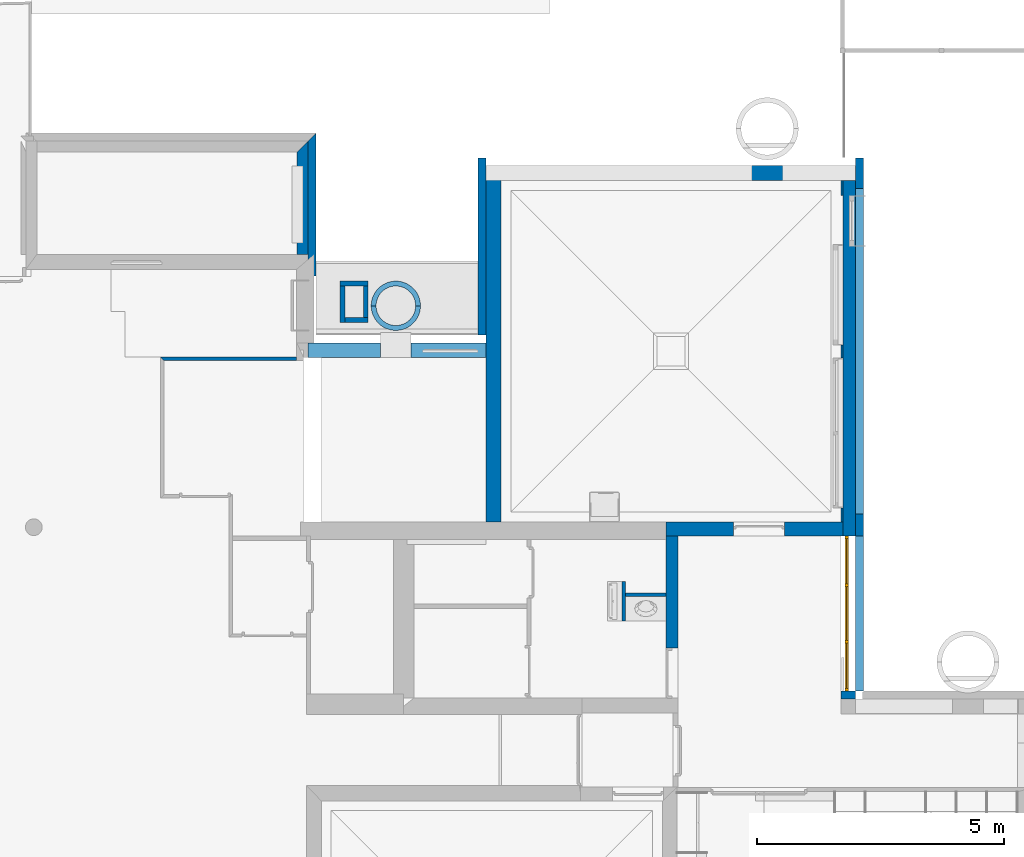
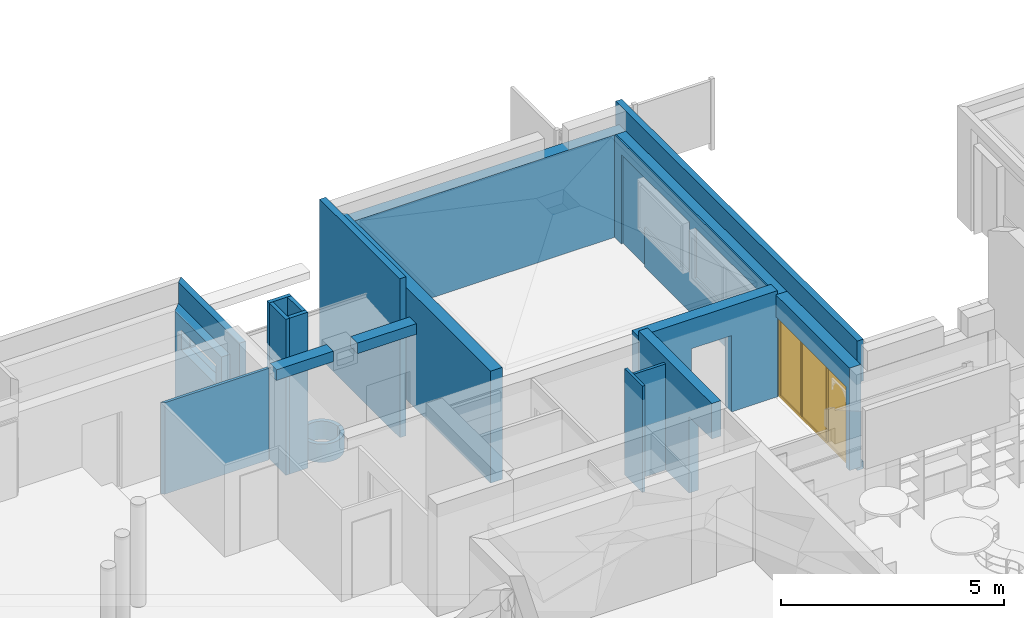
# One storey, part 23 of 64: 21 walls, 1 window, 9 openings.
"""IFC2X3 building model written with IfcOpenShell, lengths in metres."""

from ifc_helpers import new_model, entity, si_unit, converted_unit, derived_unit, direction, frame, frame_2d, origin, origin_2d_with_axis, place, context, subcontext, project, spatial, polyline, circle_curve, parameter, trimmed, segment, composite_curve, rectangle, outline, extrude, source, transform, mapped, material, material_list, layer, layer_set, layer_usage, type_object, type_shapes, element, fill, save


model = new_model("IFC2X3")

# Units and contexts
model_context = context("Model", 3, precision=1e-05, world=origin(), true_north=direction((6.123031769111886e-17, 1.0)))
body_context = subcontext(model_context, "Body", "Model", "MODEL_VIEW")
ifc_project = project(units=[si_unit("LENGTHUNIT", "METRE"), si_unit("AREAUNIT", "SQUARE_METRE"), si_unit("VOLUMEUNIT", "CUBIC_METRE"), converted_unit("PLANEANGLEUNIT", "DEGREE", entity("IfcRatioMeasure", 0.017453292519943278), si_unit("PLANEANGLEUNIT", "RADIAN"), dimensions=[0, 0, 0, 0, 0, 0, 0]), si_unit("MASSUNIT", "GRAM", prefix="KILO"), derived_unit("MASSDENSITYUNIT", [(si_unit("MASSUNIT", "GRAM", prefix="KILO"), 1), (si_unit("LENGTHUNIT", "METRE"), -3)]), derived_unit("MOMENTOFINERTIAUNIT", [(si_unit("LENGTHUNIT", "METRE"), 4)]), si_unit("TIMEUNIT", "SECOND"), si_unit("FREQUENCYUNIT", "HERTZ"), si_unit("THERMODYNAMICTEMPERATUREUNIT", "DEGREE_CELSIUS"), derived_unit("THERMALTRANSMITTANCEUNIT", [(si_unit("MASSUNIT", "GRAM", prefix="KILO"), 1), (si_unit("THERMODYNAMICTEMPERATUREUNIT", "KELVIN"), -1), (si_unit("TIMEUNIT", "SECOND"), -3)]), derived_unit("THERMALCONDUCTANCEUNIT", [(si_unit("MASSUNIT", "GRAM", prefix="KILO"), 1), (si_unit("LENGTHUNIT", "METRE"), 1), (si_unit("THERMODYNAMICTEMPERATUREUNIT", "KELVIN"), -1), (si_unit("TIMEUNIT", "SECOND"), -3)]), derived_unit("VOLUMETRICFLOWRATEUNIT", [(si_unit("LENGTHUNIT", "METRE"), 3), (si_unit("TIMEUNIT", "SECOND"), -1)]), derived_unit("MASSFLOWRATEUNIT", [(si_unit("MASSUNIT", "GRAM", prefix="KILO"), 1), (si_unit("TIMEUNIT", "SECOND"), -1)]), derived_unit("ROTATIONALFREQUENCYUNIT", [(si_unit("TIMEUNIT", "SECOND"), -1)]), si_unit("ELECTRICCURRENTUNIT", "AMPERE"), si_unit("ELECTRICVOLTAGEUNIT", "VOLT"), si_unit("POWERUNIT", "WATT"), si_unit("FORCEUNIT", "NEWTON", prefix="KILO"), si_unit("ILLUMINANCEUNIT", "LUX"), si_unit("LUMINOUSFLUXUNIT", "LUMEN"), si_unit("LUMINOUSINTENSITYUNIT", "CANDELA"), derived_unit("USERDEFINED", [(si_unit("MASSUNIT", "GRAM", prefix="KILO"), -1), (si_unit("LENGTHUNIT", "METRE"), -2), (si_unit("TIMEUNIT", "SECOND"), 3), (si_unit("LUMINOUSFLUXUNIT", "LUMEN"), 1)]), derived_unit("USERDEFINED", [(si_unit("MASSUNIT", "GRAM", prefix="KILO"), 1), (si_unit("LENGTHUNIT", "METRE"), 3), (si_unit("TIMEUNIT", "SECOND"), -3), (si_unit("ELECTRICCURRENTUNIT", "AMPERE"), -2)]), derived_unit("USERDEFINED", [(si_unit("LENGTHUNIT", "METRE"), 2), (si_unit("TIMEUNIT", "SECOND"), -2)]), derived_unit("SOUNDPOWERUNIT", [(si_unit("MASSUNIT", "GRAM", prefix="KILO"), 1), (si_unit("LENGTHUNIT", "METRE"), 2), (si_unit("TIMEUNIT", "SECOND"), -3)]), derived_unit("SOUNDPRESSUREUNIT", [(si_unit("MASSUNIT", "GRAM", prefix="KILO"), 1), (si_unit("LENGTHUNIT", "METRE"), -1), (si_unit("TIMEUNIT", "SECOND"), -2)]), derived_unit("LINEARVELOCITYUNIT", [(si_unit("LENGTHUNIT", "METRE"), 1), (si_unit("TIMEUNIT", "SECOND"), -1)]), si_unit("PRESSUREUNIT", "PASCAL"), derived_unit("USERDEFINED", [(si_unit("LENGTHUNIT", "METRE"), -2), (si_unit("MASSUNIT", "GRAM", prefix="KILO"), 1), (si_unit("TIMEUNIT", "SECOND"), -2)]), derived_unit("LINEARFORCEUNIT", [(si_unit("MASSUNIT", "GRAM", prefix="KILO"), 1), (si_unit("LENGTHUNIT", "METRE"), 1), (si_unit("TIMEUNIT", "SECOND"), -2), (si_unit("LENGTHUNIT", "METRE"), -1)]), derived_unit("PLANARFORCEUNIT", [(si_unit("MASSUNIT", "GRAM", prefix="KILO"), 1), (si_unit("LENGTHUNIT", "METRE"), 1), (si_unit("TIMEUNIT", "SECOND"), -2), (si_unit("LENGTHUNIT", "METRE"), -2)]), derived_unit("SPECIFICHEATCAPACITYUNIT", [(si_unit("LENGTHUNIT", "METRE"), 2), (si_unit("TIMEUNIT", "SECOND"), -2), (si_unit("THERMODYNAMICTEMPERATUREUNIT", "KELVIN"), -1)]), derived_unit("VAPORPERMEABILITYUNIT", [(si_unit("TIMEUNIT", "SECOND"), 1), (si_unit("LENGTHUNIT", "METRE"), -1)]), derived_unit("DYNAMICVISCOSITYUNIT", [(si_unit("MASSUNIT", "GRAM", prefix="KILO"), 1), (si_unit("LENGTHUNIT", "METRE"), -1), (si_unit("TIMEUNIT", "SECOND"), -1)]), derived_unit("THERMALEXPANSIONCOEFFICIENTUNIT", [(si_unit("THERMODYNAMICTEMPERATUREUNIT", "KELVIN"), -1)])], contexts=[model_context])

# Site, building, storey
site_placement = place(None, origin())
site = spatial("IfcSite", under=ifc_project, at=site_placement, Name="Default", CompositionType="ELEMENT")
building_placement = place(site_placement, origin())
building = spatial("IfcBuilding", under=site, at=building_placement, CompositionType="ELEMENT")
storey_placement = place(building_placement, origin())
storey = spatial("IfcBuildingStorey", under=building, at=storey_placement, Name="REZ-DE-CHAUSSÉE", CompositionType="ELEMENT", Elevation=0.0)

# Walls
wall_type_1 = type_object("IfcWallType", Name="MurExt-016", PredefinedType="NOTDEFINED")
wall_1_placement = place(storey_placement, frame((102.69075228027, 22.227209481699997, 2.05)))
element("IfcWall", 1, at=wall_1_placement, inside=storey, type_object=wall_type_1, Name="MurExt-016:MurExt-016", ObjectType="MurExt-016:MurExt-016", context=body_context, shape_type="SweptSolid", body=[
    extrude(rectangle(XDim=1.5200000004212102, YDim=0.3000000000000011, at=frame_2d((-8.715250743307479e-15, 0.0), x_axis=(1.0, 0.0))), frame((2.849999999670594, 0.15000000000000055, 0.0)), (0.0, 0.0, 1.0), 0.28999999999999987),
    extrude(rectangle(XDim=1.4699999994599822, YDim=0.3000000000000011, at=frame_2d((-8.659739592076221e-15, 0.0), x_axis=(1.0, 0.0))), frame((0.7349999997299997, 0.15000000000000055, 0.0)), (0.0, 0.0, 1.0), 0.28999999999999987),
])
ifc_material_1 = material(Name="Appareillage - Pierre taillé")
ifc_layer_1 = layer(ifc_material_1, 0.29999999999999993)
ifc_layer_set_1 = layer_set([ifc_layer_1], Name="Mur de base:Struct. - Pierre 300")
ifc_layer_usage_1 = layer_usage(ifc_layer_set_1, "AXIS2", "NEGATIVE", 0.14999999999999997)
wall_type_2 = type_object("IfcWallType", Name="Mur de base:Struct. - Pierre 300", PredefinedType="STANDARD", material=ifc_layer_set_1)
wall_2_placement = place(storey_placement, frame((106.30075228, 25.967209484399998, 0.0)))
element("IfcWallStandardCase", 2, at=wall_2_placement, inside=storey, type_object=wall_type_2, material=ifc_layer_usage_1, Name="MurExt-001", ObjectType="Mur de base:Struct. - Pierre 300", context=body_context, shape_type="SweptSolid", body=[
    extrude(outline(polyline([(7.490000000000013, -0.15000000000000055), (7.490000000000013, 0.15000000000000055), (0.0, 0.15000000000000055), (0.3000000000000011, -0.15000000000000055), (7.200000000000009, -0.15000000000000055), (7.240000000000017, -0.15000000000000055), (7.490000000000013, -0.15000000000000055)])), origin(), (0.0, 0.0, 1.0), 2.8),
])
wall_3_placement = place(storey_placement, frame((106.45075227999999, 18.8972094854, 0.0), z_axis=(0.0, 0.0, 1.0), x_axis=(0.0, 1.0, 0.0)))
element("IfcWallStandardCase", 3, at=wall_3_placement, inside=storey, type_object=wall_type_2, material=ifc_layer_usage_1, Name="MurExt-002", ObjectType="Mur de base:Struct. - Pierre 300", context=body_context, shape_type="SweptSolid", body=[
    extrude(outline(polyline([(6.919999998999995, -0.15000000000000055), (7.219999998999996, 0.15000000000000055), (0.0, 0.15000000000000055), (0.0, -0.15000000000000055), (6.919999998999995, -0.15000000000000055)])), origin(), (0.0, 0.0, 1.0), 3.06),
])

# Wall, opening
ifc_material_2 = material(Name="Enduit - Jaune nature")
ifc_layer_2 = layer(ifc_material_2, 0.02)
ifc_material_3 = material(Name="Isolation - Fibre de verre")
ifc_layer_3 = layer(ifc_material_3, 0.14)
ifc_layer_set_2 = layer_set([ifc_layer_2, ifc_layer_3], Name="Mur de base:ABA ITE 140 + enduit 160")
ifc_layer_usage_2 = layer_usage(ifc_layer_set_2, "AXIS2", "NEGATIVE", 0.08)
wall_type_3 = type_object("IfcWallType", Name="Mur de base:ABA ITE 140 + enduit 160", PredefinedType="STANDARD", material=ifc_layer_set_2)
wall_4_placement = place(storey_placement, frame((113.87075228, 26.2772094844, -0.2), z_axis=(0.0, 0.0, 1.0), x_axis=(0.0, -1.0, 0.0)))
wall_4 = element("IfcWallStandardCase", 4, at=wall_4_placement, inside=storey, type_object=wall_type_3, material=ifc_layer_usage_2, Name="MurExt-009", ObjectType="Mur de base:ABA ITE 140 + enduit 160", context=body_context, shape_type="SweptSolid", body=[
    extrude(rectangle(XDim=10.810000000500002, YDim=0.15999999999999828, at=frame_2d((5.405000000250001, 0.0), x_axis=(-1.0, 0.0))), origin(), (0.0, 0.0, 1.0), 3.54),
])
opening_1_placement = place(wall_4_placement, origin())
element("IfcOpeningElement", 5, at=opening_1_placement, cuts=wall_4, Name="MurExt-009", ObjectType="Opening", context=body_context, shape_type="SweptSolid", body=[
    extrude(rectangle(XDim=2.2, YDim=3.1400000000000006, at=frame_2d((0.0, 2.1094237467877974e-15), x_axis=(1.0, 0.0))), frame((9.240000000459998, -0.07999999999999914, 1.3), z_axis=(0.0, 1.0, 0.0), x_axis=(0.0, 0.0, 1.0)), (0.0, 0.0, 1.0), 0.31999999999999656),
    extrude(rectangle(XDim=2.8, YDim=6.599999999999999, at=origin_2d_with_axis()), frame((3.9200000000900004, -0.07999999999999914, 1.5999999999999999), z_axis=(0.0, 1.0, 0.0), x_axis=(0.0, 0.0, 1.0)), (0.0, 0.0, 1.0), 0.31999999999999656),
])

wall_5_placement = place(storey_placement, frame((102.77075228, 26.777209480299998, -1.0), z_axis=(0.0, 0.0, 1.0), x_axis=(0.0, -1.0, 0.0)))
wall_5 = element("IfcWallStandardCase", 6, at=wall_5_placement, inside=storey, type_object=wall_type_3, material=ifc_layer_usage_2, Name="MurExt-005", ObjectType="Mur de base:ABA ITE 140 + enduit 160", context=body_context, shape_type="SweptSolid", body=[
    extrude(outline(polyline([(2.8999999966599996, -0.07999999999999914), (2.8999999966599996, 0.07999999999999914), (0.0, 0.07999999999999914), (0.15999999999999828, -0.07999999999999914), (2.8999999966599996, -0.07999999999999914)])), origin(), (0.0, 0.0, 1.0), 3.0699999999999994),
])
opening_2_placement = place(wall_5_placement, origin())
element("IfcOpeningElement", 7, at=opening_2_placement, cuts=wall_5, Name="MurExt-005", ObjectType="Opening", context=body_context, shape_type="SweptSolid", body=[
    extrude(rectangle(XDim=0.55, YDim=1.559999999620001, at=frame_2d((2.7755575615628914e-17, 0.0), x_axis=(1.0, 0.0))), frame((1.4499999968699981, -0.07999999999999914, 1.855), z_axis=(0.0, 1.0, 0.0), x_axis=(0.0, 0.0, 1.0)), (0.0, 0.0, 1.0), 0.31999999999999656),
])

# Wall
wall_6_placement = place(storey_placement, frame((106.22075228, 22.6872094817, -1.0), z_axis=(0.0, 0.0, 1.0), x_axis=(0.0, 1.0, 0.0)))
element("IfcWallStandardCase", 8, at=wall_6_placement, inside=storey, type_object=wall_type_3, material=ifc_layer_usage_2, Name="MurExt-007", ObjectType="Mur de base:ABA ITE 140 + enduit 160", context=body_context, shape_type="SweptSolid", body=[
    extrude(rectangle(XDim=3.590000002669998, YDim=0.15999999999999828, at=frame_2d((1.795000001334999, 0.0), x_axis=(-1.0, 0.0))), origin(), (0.0, 0.0, 1.0), 4.339999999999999),
])

# Wall, opening
ifc_layer_4 = layer(ifc_material_1, 0.29)
ifc_layer_set_3 = layer_set([ifc_layer_4], Name="Mur de base:Struct. - Pierre 290")
ifc_layer_usage_3 = layer_usage(ifc_layer_set_3, "AXIS2", "NEGATIVE", 0.145)
wall_type_4 = type_object("IfcWallType", Name="Mur de base:Struct. - Pierre 290", PredefinedType="STANDARD", material=ifc_layer_set_3)
wall_7_placement = place(storey_placement, frame((113.54075228, 18.752209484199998, 0.0), z_axis=(0.0, 0.0, 1.0), x_axis=(-1.0, 0.0, 0.0)))
wall_7 = element("IfcWallStandardCase", 9, at=wall_7_placement, inside=storey, type_object=wall_type_4, material=ifc_layer_usage_3, Name="MurExt-003", ObjectType="Mur de base:Struct. - Pierre 290", context=body_context, shape_type="SweptSolid", body=[
    extrude(rectangle(XDim=3.5900000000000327, YDim=0.28999999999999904, at=frame_2d((1.7950000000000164, 0.0), x_axis=(1.0, 0.0))), origin(), (0.0, 0.0, 1.0), 2.8999999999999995),
])
opening_3_placement = place(wall_7_placement, frame((113.54075228, 18.752209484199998, 0.0), z_axis=(0.0, 0.0, 1.0), x_axis=(-1.0, 0.0, 0.0)))
element("IfcOpeningElement", 10, at=opening_3_placement, cuts=wall_7, Name="MurExt-003", ObjectType="Opening", context=body_context, shape_type="SweptSolid", body=[
    extrude(rectangle(XDim=2.09, YDim=1.0300000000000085, at=frame_2d((0.0, 0.0), x_axis=(0.0, 1.0))), frame((111.83575227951, 19.2928094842, 1.045), z_axis=(0.0, -1.0, 0.0), x_axis=(1.0, 0.0, 0.0)), (0.0, 0.0, 1.0), 1.081200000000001),
])

# Wall, opening, window
wall_8_placement = place(storey_placement, frame((113.64575228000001, 18.6072094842, 0.0), z_axis=(0.0, 0.0, 1.0), x_axis=(0.0, -1.0, 0.0)))
wall_8 = element("IfcWallStandardCase", 11, at=wall_8_placement, inside=storey, type_object=wall_type_4, material=ifc_layer_usage_3, Name="MurExt-003", ObjectType="Mur de base:Struct. - Pierre 290", context=body_context, shape_type="SweptSolid", body=[
    extrude(rectangle(XDim=3.300000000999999, YDim=0.29000000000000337, at=frame_2d((1.6500000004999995, 0.0), x_axis=(-1.0, 0.0))), origin(), (0.0, 0.0, 1.0), 2.8),
])
opening_4_placement = place(wall_8_placement, frame((18.6072094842, -113.64575228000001, 0.0), z_axis=(0.0, 0.0, 1.0), x_axis=(0.0, 1.0, 0.0)))
opening_4 = element("IfcOpeningElement", 12, at=opening_4_placement, cuts=wall_8, Name="MurExt-003", ObjectType="Opening", context=body_context, shape_type="SweptSolid", body=[
    extrude(rectangle(XDim=2.2, YDim=3.1400000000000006, at=frame_2d((0.0, -2.1094237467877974e-15), x_axis=(1.0, 0.0))), frame((113.35285228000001, 17.03720948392, 1.1), z_axis=(1.0, 0.0, 0.0), x_axis=(0.0, 0.0, -1.0)), (0.0, 0.0, 1.0), 0.5857999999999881),
])
ifc_material_4 = material(Name="Transp. - Verre clair (rapide)")
ifc_material_5 = material(Name="Peinture - Anthracite")
ifc_material_list = material_list([ifc_material_4, ifc_material_5])
window_style = type_object("IfcWindowStyle", Name="Fen-002", ConstructionType="NOTDEFINED", OperationType="NOTDEFINED", ParameterTakesPrecedence=False, Sizeable=False, material=ifc_material_list)
shared_shape = source(origin(), body_context, "Body", "SweptSolid", [
    extrude(rectangle(XDim=0.9199999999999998, YDim=0.010000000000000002, at=origin_2d_with_axis()), frame((0.5099999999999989, -0.32789999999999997, 0.0601)), (0.0, 0.0, 1.0), 2.0899),
    extrude(rectangle(XDim=0.9200000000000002, YDim=0.010000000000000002, at=frame_2d((-1.3877787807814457e-16, 0.0), x_axis=(1.0, 0.0))), frame((2.629999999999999, -0.32789999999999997, 0.0601)), (0.0, 0.0, 1.0), 2.0899),
    extrude(rectangle(XDim=1.0999999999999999, YDim=0.010000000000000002, at=origin_2d_with_axis()), frame((1.5699999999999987, -0.32789999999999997, 0.0601)), (0.0, 0.0, 1.0), 2.0899),
    extrude(outline(polyline([(-1.1, -1.5699999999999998), (1.1, -1.5699999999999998), (1.1, 1.5699999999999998), (-1.1, 1.5699999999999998), (-1.1, -1.5699999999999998)]), holes=[polyline([(1.0499999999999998, 0.55), (1.0499999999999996, -0.5499999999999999), (-1.0400000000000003, -0.5499999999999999), (-1.0399999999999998, 0.55), (1.0499999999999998, 0.55)]), polyline([(-1.0400000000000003, -0.6000000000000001), (1.0499999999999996, -0.6000000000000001), (1.0499999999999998, -1.5199999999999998), (-1.0400000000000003, -1.5199999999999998), (-1.0400000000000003, -0.6000000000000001)]), polyline([(1.0499999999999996, 0.5999999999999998), (-1.0400000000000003, 0.5999999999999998), (-1.0399999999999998, 1.5199999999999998), (1.0499999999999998, 1.5199999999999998), (1.0499999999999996, 0.5999999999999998)])]), frame((1.5699999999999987, -0.36289999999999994, 1.1), z_axis=(0.0, 1.0, 0.0), x_axis=(0.0, 0.0, 1.0)), (0.0, 0.0, 1.0), 0.07),
])
type_shapes(window_style, [shared_shape])
window_placement = place(opening_4_placement, frame((113.93865228, 18.607209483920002, 0.0), z_axis=(0.0, 0.0, 1.0), x_axis=(0.0, -1.0, 0.0)))
window = element("IfcWindow", 13, at=window_placement, inside=storey, type_object=window_style, material=ifc_material_list, Name="Fen-002 23216:Fen-002 23216", ObjectType="Fen-002 23216:Fen-002 23216", OverallHeight=2.2, OverallWidth=3.140000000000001, context=body_context, shape_type="MappedRepresentation", body=[
    mapped(shared_shape, transform((0.0, 0.0, 0.0), scale=1.0)),
])
fill(opening_4, window)

# Wall
ifc_material_6 = material(Name="Bois - Pin granuleux horizontal")
ifc_layer_5 = layer(ifc_material_6, 0.031999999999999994)
ifc_material_7 = material(Name="Air - Vide d'air")
ifc_layer_6 = layer(ifc_material_7, 0.041)
ifc_material_8 = material(Name="Bois - Panneaux de particules")
ifc_layer_7 = layer(ifc_material_8, 0.022)
ifc_layer_8 = layer(ifc_material_3, 0.12)
ifc_layer_9 = layer(ifc_material_8, 0.022)
ifc_material_9 = material(Name="Plâtre - Plaques de plâtre")
ifc_layer_10 = layer(ifc_material_9, 0.013)
ifc_layer_set_4 = layer_set([ifc_layer_5, ifc_layer_6, ifc_layer_7, ifc_layer_8, ifc_layer_9, ifc_layer_10], Name="Mur de base:ABA MOB bardage 250")
ifc_layer_usage_4 = layer_usage(ifc_layer_set_4, "AXIS2", "NEGATIVE", 0.12499999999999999)
wall_type_5 = type_object("IfcWallType", Name="Mur de base:ABA MOB bardage 250", PredefinedType="STANDARD", material=ifc_layer_set_4)
wall_9_placement = place(storey_placement, frame((113.66575227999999, 25.817209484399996, 0.0), z_axis=(0.0, 0.0, 1.0), x_axis=(0.0, -1.0, 0.0)))
element("IfcWallStandardCase", 14, at=wall_9_placement, inside=storey, type_object=wall_type_5, material=ifc_layer_usage_4, Name="MurExt-002", ObjectType="Mur de base:ABA MOB bardage 250", context=body_context, shape_type="SweptSolid", body=[
    extrude(rectangle(XDim=7.210000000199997, YDim=0.2500000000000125, at=frame_2d((3.6050000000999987, 0.0), x_axis=(-1.0, 0.0))), origin(), (0.0, 0.0, 1.0), 2.8),
])

# Wall, opening
ifc_layer_11 = layer(ifc_material_1, 0.22)
ifc_layer_set_5 = layer_set([ifc_layer_11], Name="Mur de base:Struct. - Pierre 220")
ifc_layer_usage_5 = layer_usage(ifc_layer_set_5, "AXIS2", "NEGATIVE", 0.11)
wall_type_6 = type_object("IfcWallType", Name="Mur de base:Struct. - Pierre 220", PredefinedType="STANDARD", material=ifc_layer_set_5)
wall_10_placement = place(storey_placement, frame((102.58075228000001, 26.6172094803, -1.1999999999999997), z_axis=(0.0, 0.0, 1.0), x_axis=(0.0, -1.0, 0.0)))
wall_10 = element("IfcWallStandardCase", 15, at=wall_10_placement, inside=storey, type_object=wall_type_6, material=ifc_layer_usage_5, Name="MurExt-012", ObjectType="Mur de base:Struct. - Pierre 220", context=body_context, shape_type="SweptSolid", body=[
    extrude(outline(polyline([(2.2999999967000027, -0.11000000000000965), (2.2999999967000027, 0.10999999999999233), (0.0, 0.10999999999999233), (0.2200000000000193, -0.11000000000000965), (2.2999999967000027, -0.11000000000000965)])), origin(), (0.0, 0.0, 1.0), 2.7),
])
opening_5_placement = place(wall_10_placement, frame((26.6172094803, -102.58075228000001, 1.1999999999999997), z_axis=(0.0, 0.0, 1.0), x_axis=(0.0, 1.0, 0.0)))
element("IfcOpeningElement", 16, at=opening_5_placement, cuts=wall_10, Name="MurExt-012", ObjectType="Opening", context=body_context, shape_type="SweptSolid", body=[
    extrude(rectangle(XDim=0.55, YDim=1.5599999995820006, at=frame_2d((-2.7755575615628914e-17, 2.1649348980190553e-15), x_axis=(1.0, 0.0))), frame((102.35855228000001, 25.32720948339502, 0.8750000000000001), z_axis=(1.0, 0.0, 0.0), x_axis=(0.0, 0.0, -1.0)), (0.0, 0.0, 1.0), 0.44440000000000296),
])

# Walls
ifc_layer_12 = layer(ifc_material_1, 0.1)
ifc_layer_set_6 = layer_set([ifc_layer_12], Name="Mur de base:Struct. - Pierre 100")
ifc_layer_usage_6 = layer_usage(ifc_layer_set_6, "AXIS2", "NEGATIVE", 0.05)
wall_type_7 = type_object("IfcWallType", Name="Mur de base:Struct. - Pierre 100", PredefinedType="STANDARD", material=ifc_layer_set_6)
wall_11_placement = place(storey_placement, frame((103.340752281, 23.727209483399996, -1.2)))
element("IfcWallStandardCase", 17, at=wall_11_placement, inside=storey, type_object=wall_type_7, material=ifc_layer_usage_6, Name="MurExt-016", ObjectType="Mur de base:Struct. - Pierre 100", context=body_context, shape_type="SweptSolid", body=[
    extrude(rectangle(XDim=0.5699999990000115, YDim=0.10000000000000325, at=frame_2d((0.28499999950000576, 0.0), x_axis=(-1.0, 0.0))), origin(), (0.0, 0.0, 1.0), 4.26),
])
wall_12_placement = place(storey_placement, frame((103.39075228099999, 22.9372094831, -1.2), z_axis=(0.0, 0.0, 1.0), x_axis=(0.0, 1.0, 0.0)))
element("IfcWallStandardCase", 18, at=wall_12_placement, inside=storey, type_object=wall_type_7, material=ifc_layer_usage_6, Name="MurExt-017", ObjectType="Mur de base:Struct. - Pierre 100", context=body_context, shape_type="SweptSolid", body=[
    extrude(rectangle(XDim=0.7400000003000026, YDim=0.10000000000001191, at=frame_2d((0.3700000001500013, 0.0), x_axis=(-1.0, 0.0))), origin(), (0.0, 0.0, 1.0), 4.26),
])
wall_13_placement = place(storey_placement, frame((103.91075228, 22.9872094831, -1.2), z_axis=(0.0, 0.0, 1.0), x_axis=(-1.0, 0.0, 0.0)))
element("IfcWallStandardCase", 19, at=wall_13_placement, inside=storey, type_object=wall_type_7, material=ifc_layer_usage_6, Name="MurExt-018", ObjectType="Mur de base:Struct. - Pierre 100", context=body_context, shape_type="SweptSolid", body=[
    extrude(rectangle(XDim=0.469999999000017, YDim=0.10000000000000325, at=frame_2d((0.2349999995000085, 0.0), x_axis=(-1.0, 0.0))), origin(), (0.0, 0.0, 1.0), 4.26),
])
wall_14_placement = place(storey_placement, frame((103.86075228, 23.6772094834, -1.2), z_axis=(0.0, 0.0, 1.0), x_axis=(0.0, -1.0, 0.0)))
element("IfcWallStandardCase", 20, at=wall_14_placement, inside=storey, type_object=wall_type_7, material=ifc_layer_usage_6, Name="MurExt-019", ObjectType="Mur de base:Struct. - Pierre 100", context=body_context, shape_type="SweptSolid", body=[
    extrude(rectangle(XDim=0.6400000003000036, YDim=0.10000000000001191, at=frame_2d((0.3200000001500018, 0.0), x_axis=(-1.0, 0.0))), origin(), (0.0, 0.0, 1.0), 4.26),
])
ifc_layer_usage_7 = layer_usage(ifc_layer_set_6, "AXIS2", "POSITIVE", -0.05)
wall_15_placement = place(storey_placement, frame((104.02075227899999, 23.277209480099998, -1.1)))
element("IfcWallStandardCase", 21, at=wall_15_placement, inside=storey, type_object=wall_type_7, material=ifc_layer_usage_7, Name="MurExt-003", ObjectType="Mur de base:Struct. - Pierre 100", context=body_context, shape_type="SweptSolid", body=[
    extrude(outline(composite_curve([segment(trimmed(circle_curve(frame_2d((0.4500000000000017, 0.0), x_axis=(1.0, 0.0)), 0.49999999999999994), [parameter(0.0)], [parameter(180.00000000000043)], True, "PARAMETER"), True, "CONTINUOUS"), segment(polyline([(-0.050000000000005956, 0.0), (0.050000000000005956, 0.0)]), True, "CONTINUOUS"), segment(trimmed(circle_curve(frame_2d((0.4500000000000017, 0.0), x_axis=(1.0, 0.0)), 0.39999999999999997), [parameter(0.0)], [parameter(180.00000000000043)], True, "PARAMETER"), False, "CONTINUOUS"), segment(polyline([(0.8499999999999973, 0.0), (0.9500000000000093, 0.0)]), True, "CONTINUOUS")], self_intersect=False)), origin(), (0.0, 0.0, 1.0), 0.5),
])
wall_16_placement = place(storey_placement, frame((104.920752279, 23.277209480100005, -1.1), z_axis=(0.0, 0.0, 1.0), x_axis=(-1.0, 0.0, 0.0)))
element("IfcWallStandardCase", 22, at=wall_16_placement, inside=storey, type_object=wall_type_7, material=ifc_layer_usage_7, Name="MurExt-004", ObjectType="Mur de base:Struct. - Pierre 100", context=body_context, shape_type="SweptSolid", body=[
    extrude(outline(composite_curve([segment(trimmed(circle_curve(frame_2d((0.4500000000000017, 0.0), x_axis=(1.0, 0.0)), 0.49999999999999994), [parameter(0.0)], [parameter(180.00000000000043)], True, "PARAMETER"), True, "CONTINUOUS"), segment(polyline([(-0.050000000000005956, 0.0), (0.050000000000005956, 0.0)]), True, "CONTINUOUS"), segment(trimmed(circle_curve(frame_2d((0.4500000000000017, 0.0), x_axis=(1.0, 0.0)), 0.39999999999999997), [parameter(0.0)], [parameter(180.00000000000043)], True, "PARAMETER"), False, "CONTINUOUS"), segment(polyline([(0.8499999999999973, 0.0), (0.9500000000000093, 0.0)]), True, "CONTINUOUS")], self_intersect=False)), origin(), (0.0, 0.0, 1.0), 0.5),
])
ifc_layer_13 = layer(ifc_material_1, 0.07)
ifc_layer_set_7 = layer_set([ifc_layer_13], Name="Mur de base:Struct. - Pierre 70")
ifc_layer_usage_8 = layer_usage(ifc_layer_set_7, "AXIS2", "NEGATIVE", 0.035)
wall_type_8 = type_object("IfcWallType", Name="Mur de base:Struct. - Pierre 70", PredefinedType="STANDARD", material=ifc_layer_set_7)
wall_17_placement = place(storey_placement, frame((99.7007521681, 22.202209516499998, 0.0)))
element("IfcWallStandardCase", 23, at=wall_17_placement, inside=storey, type_object=wall_type_8, material=ifc_layer_usage_8, Name="MurExt-017", ObjectType="Mur de base:Struct. - Pierre 70", context=body_context, shape_type="SweptSolid", body=[
    extrude(outline(polyline([(2.7600001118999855, -0.035000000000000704), (2.7600001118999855, 0.035000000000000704), (0.0, 0.035000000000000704), (0.06999999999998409, -0.035000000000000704), (2.7600001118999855, -0.035000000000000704)])), origin(), (0.0, 0.0, 1.0), 2.4999999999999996),
])

# Wall, opening
ifc_layer_14 = layer(ifc_material_1, 0.24)
ifc_layer_set_8 = layer_set([ifc_layer_14], Name="Mur de base:Struct. - Pierre 240")
ifc_layer_usage_9 = layer_usage(ifc_layer_set_8, "AXIS2", "NEGATIVE", 0.12)
wall_type_9 = type_object("IfcWallType", Name="Mur de base:Struct. - Pierre 240", PredefinedType="STANDARD", material=ifc_layer_set_8)
wall_18_placement = place(storey_placement, frame((110.07075227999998, 18.6072094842, 0.0), z_axis=(0.0, 0.0, 1.0), x_axis=(0.0, -1.0, 0.0)))
wall_18 = element("IfcWallStandardCase", 24, at=wall_18_placement, inside=storey, type_object=wall_type_9, material=ifc_layer_usage_9, Name="MurExt-003", ObjectType="Mur de base:Struct. - Pierre 240", context=body_context, shape_type="SweptSolid", body=[
    extrude(rectangle(XDim=3.280000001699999, YDim=0.24000000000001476, at=frame_2d((1.6400000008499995, 0.0), x_axis=(-1.0, 0.0))), origin(), (0.0, 0.0, 1.0), 3.06),
])
opening_6_placement = place(wall_18_placement, frame((18.6072094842, -110.07075227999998, 0.0), z_axis=(0.0, 0.0, 1.0), x_axis=(0.0, 1.0, 0.0)))
element("IfcOpeningElement", 25, at=opening_6_placement, cuts=wall_18, Name="MurExt-003", ObjectType="Opening", context=body_context, shape_type="SweptSolid", body=[
    extrude(rectangle(XDim=2.09, YDim=1.0299999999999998, at=origin_2d_with_axis()), frame((109.68315227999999, 15.827209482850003, 1.045), z_axis=(1.0, 0.0, 0.0), x_axis=(0.0, 0.0, -1.0)), (0.0, 0.0, 1.0), 0.775199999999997),
])

# Walls
ifc_layer_15 = layer(ifc_material_9, 0.013)
ifc_layer_16 = layer(ifc_material_3, 0.044)
ifc_layer_17 = layer(ifc_material_9, 0.013)
ifc_layer_set_9 = layer_set([ifc_layer_15, ifc_layer_16, ifc_layer_17], Name="Mur de base:ABA cloison 7cm 70")
ifc_layer_usage_10 = layer_usage(ifc_layer_set_9, "AXIS2", "NEGATIVE", 0.034999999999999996)
wall_type_10 = type_object("IfcWallType", Name="Mur de base:ABA cloison 7cm 70", PredefinedType="STANDARD", material=ifc_layer_set_9)
wall_19_placement = place(storey_placement, frame((109.95075227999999, 17.4222094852, 0.0), z_axis=(0.0, 0.0, 1.0), x_axis=(-1.0, 0.0, 0.0)))
element("IfcWallStandardCase", 26, at=wall_19_placement, inside=storey, type_object=wall_type_10, material=ifc_layer_usage_10, Name="MurExt-025", ObjectType="Mur de base:ABA cloison 7cm 70", context=body_context, shape_type="SweptSolid", body=[
    extrude(rectangle(XDim=0.8200000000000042, YDim=0.07000000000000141, at=frame_2d((0.4100000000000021, 0.0), x_axis=(-1.0, 0.0))), origin(), (0.0, 0.0, 1.0), 2.8999999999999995),
])
wall_20_placement = place(storey_placement, frame((109.09575227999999, 16.8872094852, 0.0), z_axis=(0.0, 0.0, 1.0), x_axis=(0.0, 1.0, 0.0)))
element("IfcWallStandardCase", 27, at=wall_20_placement, inside=storey, type_object=wall_type_10, material=ifc_layer_usage_10, Name="MurExt-025", ObjectType="Mur de base:ABA cloison 7cm 70", context=body_context, shape_type="SweptSolid", body=[
    extrude(rectangle(XDim=0.8, YDim=0.06999999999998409, at=frame_2d((0.4, 0.0), x_axis=(-1.0, 0.0))), origin(), (0.0, 0.0, 1.0), 2.8999999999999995),
])

# Wall, openings
ifc_material_10 = material(Name="Métal - Fer")
ifc_layer_18 = layer(ifc_material_10, 0.037)
ifc_layer_19 = layer(ifc_material_7, 0.035)
ifc_layer_20 = layer(ifc_material_3, 0.04)
ifc_layer_21 = layer(ifc_material_3, 0.145)
ifc_layer_22 = layer(ifc_material_8, 0.012)
ifc_layer_23 = layer(ifc_material_7, 0.048)
ifc_layer_24 = layer(ifc_material_9, 0.013)
ifc_layer_set_10 = layer_set([ifc_layer_18, ifc_layer_19, ifc_layer_20, ifc_layer_21, ifc_layer_22, ifc_layer_23, ifc_layer_24], Name="Mur de base:ABA MOB ITE bardage 330")
ifc_layer_usage_11 = layer_usage(ifc_layer_set_10, "AXIS2", "NEGATIVE", 0.165)
wall_type_11 = type_object("IfcWallType", Name="Mur de base:ABA MOB ITE bardage 330", PredefinedType="STANDARD", material=ifc_layer_set_10)
wall_21_placement = place(storey_placement, frame((113.66575227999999, 25.817209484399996, 0.0), z_axis=(0.0, 0.0, 1.0), x_axis=(0.0, -1.0, 0.0)))
wall_21 = element("IfcWallStandardCase", 28, at=wall_21_placement, inside=storey, type_object=wall_type_11, material=ifc_layer_usage_11, Name="MurExt-002", ObjectType="Mur de base:ABA MOB ITE bardage 330", context=body_context, shape_type="SweptSolid", body=[
    extrude(rectangle(XDim=6.920000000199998, YDim=0.3299999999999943, at=frame_2d((3.460000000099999, 0.0), x_axis=(1.0, 0.0))), origin(), (0.0, 0.0, 1.0), 2.8),
])
opening_7_placement = place(wall_21_placement, frame((25.817209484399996, -113.66575227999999, 0.0), z_axis=(0.0, 0.0, 1.0), x_axis=(0.0, 1.0, 0.0)))
element("IfcOpeningElement", 29, at=opening_7_placement, cuts=wall_21, Name="MurExt-002", ObjectType="Opening", context=body_context, shape_type="SweptSolid", body=[
    extrude(rectangle(XDim=2.44, YDim=1.0400000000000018, at=frame_2d((0.0, 2.1649348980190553e-15), x_axis=(1.0, 0.0))), frame((113.33245228, 24.997209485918, 1.22), z_axis=(1.0, 0.0, 0.0), x_axis=(0.0, 0.0, -1.0)), (0.0, 0.0, 1.0), 0.6666000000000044),
])
opening_8_placement = place(wall_21_placement, frame((25.817209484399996, -113.66575227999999, 0.0), z_axis=(0.0, 0.0, 1.0), x_axis=(0.0, 1.0, 0.0)))
element("IfcOpeningElement", 30, at=opening_8_placement, cuts=wall_21, Name="MurExt-002", ObjectType="Opening", context=body_context, shape_type="SweptSolid", body=[
    extrude(rectangle(XDim=1.36, YDim=2.04, at=frame_2d((-2.1094237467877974e-15, 0.0), x_axis=(0.0, 1.0))), frame((113.33245228, 23.497209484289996, 1.7599999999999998), z_axis=(1.0, 0.0, 0.0), x_axis=(0.0, 1.0, 0.0)), (0.0, 0.0, 1.0), 0.6666000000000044),
])
opening_9_placement = place(wall_21_placement, frame((25.817209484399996, -113.66575227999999, 0.0), z_axis=(0.0, 0.0, 1.0), x_axis=(0.0, 1.0, 0.0)))
element("IfcOpeningElement", 31, at=opening_9_placement, cuts=wall_21, Name="MurExt-002", ObjectType="Opening", context=body_context, shape_type="SweptSolid", body=[
    extrude(rectangle(XDim=1.36, YDim=3.040000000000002, at=origin_2d_with_axis()), frame((113.33245228, 20.69720948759, 1.7599999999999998), z_axis=(1.0, 0.0, 0.0), x_axis=(0.0, 0.0, -1.0)), (0.0, 0.0, 1.0), 0.6666000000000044),
])

save(model, "model.ifc")
